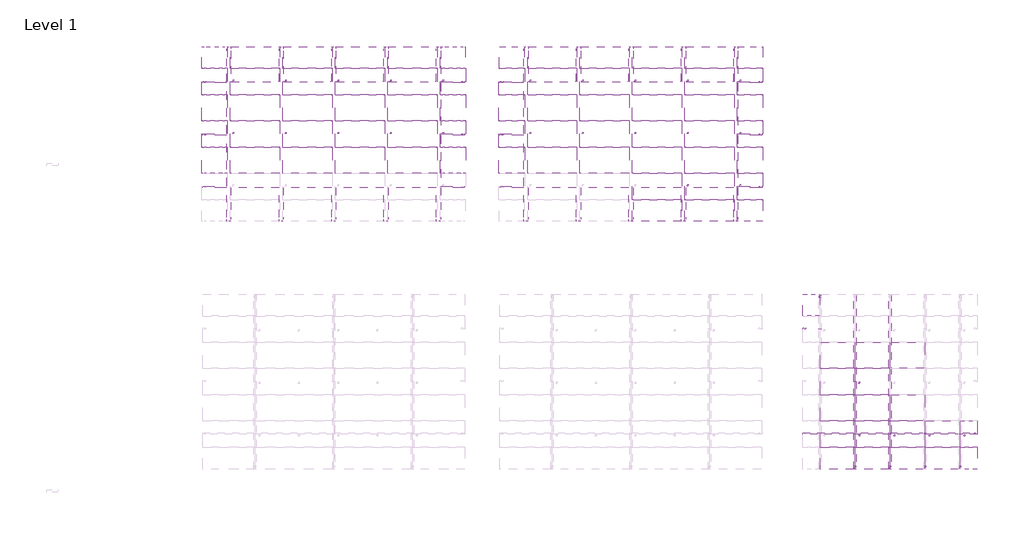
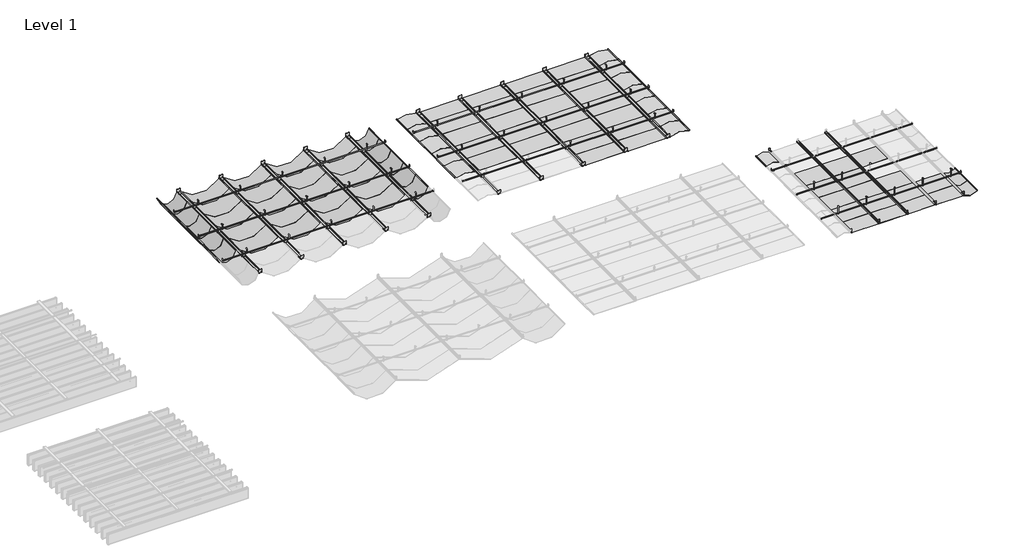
# One storey, part 31 of 32: 139 proxies.
"""IFC4 building model written with IfcOpenShell, lengths in millimetres."""

from ifc_helpers import new_model, si_unit, origin, place, context, project, spatial, transform, mapped, element, save
from components import generic_models_bd86510f, generic_models_00619762, generic_models_35db3c34, generic_models_3d7ed079, generic_models_ec380e44, generic_models_ebad526c, generic_models_70da1f73, generic_models_ead52ac8, generic_models_b18b6bec, generic_models_10d21898, generic_models_e175033b, generic_models_3b12604e, generic_models_fe305517, generic_models_41f043e1, generic_models_075569b2, generic_models_02727b26, generic_models_f9a1266b, generic_models_0db597f7, generic_models_ce491251, generic_models_e62b76ac, generic_models_9e18e937, generic_models_28f6a95c, generic_models_9ccf16c1, generic_models_743fb40c

model = new_model("IFC4")

# Units and contexts
model_context = context("Model", 3, world=origin())
ifc_project = project(units=[si_unit("LENGTHUNIT", "METRE", prefix="MILLI")], contexts=[model_context])

# Site, building, storey
site = spatial("IfcSite", under=ifc_project)
building = spatial("IfcBuilding", under=site)
storey = spatial("IfcBuildingStorey", under=building, Name="Level 1", Elevation=0.0)

# Proxies
placement = place(None, origin())
generic_models_shape = generic_models_bd86510f(model_context)
element("IfcBuildingElementProxy", 1, Name="durlum_S5_DOMUS_panel : durlum_S5_DOMUS_panel_wall_width_cut", ObjectType="durlum_S5_DOMUS_panel : durlum_S5_DOMUS_panel_wall_width_cut", at=placement, inside=storey, context=model_context, shape_type="MappedRepresentation", body=[
    mapped(generic_models_shape, transform((36066.0104325, 26450.5348963, 3800.0), x_axis=(1.0, 0.0, 0.0), y_axis=(0.0, 1.0, 0.0), z_axis=(0.0, 0.0, 1.0))),
])
element("IfcBuildingElementProxy", 2, Name="durlum_S5_DOMUS_panel : durlum_S5_DOMUS_panel_wall_width_cut", ObjectType="durlum_S5_DOMUS_panel : durlum_S5_DOMUS_panel_wall_width_cut", at=placement, inside=storey, context=model_context, shape_type="MappedRepresentation", body=[
    mapped(generic_models_shape, transform((37266.0104325, 26450.5348963, 3800.0), x_axis=(1.0, 0.0, 0.0), y_axis=(0.0, 1.0, 0.0), z_axis=(0.0, 0.0, 1.0))),
])
element("IfcBuildingElementProxy", 3, Name="durlum_S5_DOMUS_panel : durlum_S5_DOMUS_panel_wall_width_cut", ObjectType="durlum_S5_DOMUS_panel : durlum_S5_DOMUS_panel_wall_width_cut", at=placement, inside=storey, context=model_context, shape_type="MappedRepresentation", body=[
    mapped(generic_models_shape, transform((34866.0104325, 26450.5348963, 3800.0), x_axis=(1.0, 0.0, 0.0), y_axis=(0.0, 1.0, 0.0), z_axis=(0.0, 0.0, 1.0))),
])
element("IfcBuildingElementProxy", 4, Name="durlum_S5_DOMUS_panel : durlum_S5_DOMUS_panel_wall_width_cut", ObjectType="durlum_S5_DOMUS_panel : durlum_S5_DOMUS_panel_wall_width_cut", at=placement, inside=storey, context=model_context, shape_type="MappedRepresentation", body=[
    mapped(generic_models_shape, transform((38466.0104325, 26450.5348963, 3800.0), x_axis=(1.0, 0.0, 0.0), y_axis=(0.0, 1.0, 0.0), z_axis=(0.0, 0.0, 1.0))),
])
generic_models_2_shape = generic_models_00619762(model_context)
element("IfcBuildingElementProxy", 5, Name="durlum_S5_DOMUS_panel : durlum_S5_DOMUS_panel", ObjectType="durlum_S5_DOMUS_panel : durlum_S5_DOMUS_panel", at=placement, inside=storey, context=model_context, shape_type="MappedRepresentation", body=[
    mapped(generic_models_2_shape, transform((36066.0104325, 24100.5348963, 3800.0), x_axis=(1.0, 0.0, 0.0), y_axis=(0.0, 1.0, 0.0), z_axis=(0.0, 0.0, 1.0))),
])
element("IfcBuildingElementProxy", 6, Name="durlum_S5_DOMUS_panel : durlum_S5_DOMUS_panel", ObjectType="durlum_S5_DOMUS_panel : durlum_S5_DOMUS_panel", at=placement, inside=storey, context=model_context, shape_type="MappedRepresentation", body=[
    mapped(generic_models_2_shape, transform((37266.0104325, 24100.5348963, 3800.0), x_axis=(1.0, 0.0, 0.0), y_axis=(0.0, 1.0, 0.0), z_axis=(0.0, 0.0, 1.0))),
])
element("IfcBuildingElementProxy", 7, Name="durlum_S5_DOMUS_panel : durlum_S5_DOMUS_panel", ObjectType="durlum_S5_DOMUS_panel : durlum_S5_DOMUS_panel", at=placement, inside=storey, context=model_context, shape_type="MappedRepresentation", body=[
    mapped(generic_models_2_shape, transform((36066.0104325, 24700.5348963, 3800.0), x_axis=(1.0, 0.0, 0.0), y_axis=(0.0, 1.0, 0.0), z_axis=(0.0, 0.0, 1.0))),
])
element("IfcBuildingElementProxy", 8, Name="durlum_S5_DOMUS_panel : durlum_S5_DOMUS_panel", ObjectType="durlum_S5_DOMUS_panel : durlum_S5_DOMUS_panel", at=placement, inside=storey, context=model_context, shape_type="MappedRepresentation", body=[
    mapped(generic_models_2_shape, transform((37266.0104325, 24700.5348963, 3800.0), x_axis=(1.0, 0.0, 0.0), y_axis=(0.0, 1.0, 0.0), z_axis=(0.0, 0.0, 1.0))),
])
element("IfcBuildingElementProxy", 9, Name="durlum_S5_DOMUS_panel : durlum_S5_DOMUS_panel", ObjectType="durlum_S5_DOMUS_panel : durlum_S5_DOMUS_panel", at=placement, inside=storey, context=model_context, shape_type="MappedRepresentation", body=[
    mapped(generic_models_2_shape, transform((36066.0104325, 25300.5348963, 3800.0), x_axis=(1.0, 0.0, 0.0), y_axis=(0.0, 1.0, 0.0), z_axis=(0.0, 0.0, 1.0))),
])
element("IfcBuildingElementProxy", 10, Name="durlum_S5_DOMUS_panel : durlum_S5_DOMUS_panel", ObjectType="durlum_S5_DOMUS_panel : durlum_S5_DOMUS_panel", at=placement, inside=storey, context=model_context, shape_type="MappedRepresentation", body=[
    mapped(generic_models_2_shape, transform((37266.0104325, 25300.5348963, 3800.0), x_axis=(1.0, 0.0, 0.0), y_axis=(0.0, 1.0, 0.0), z_axis=(0.0, 0.0, 1.0))),
])
element("IfcBuildingElementProxy", 11, Name="durlum_S5_DOMUS_panel : durlum_S5_DOMUS_panel", ObjectType="durlum_S5_DOMUS_panel : durlum_S5_DOMUS_panel", at=placement, inside=storey, context=model_context, shape_type="MappedRepresentation", body=[
    mapped(generic_models_2_shape, transform((36066.0104325, 25900.5348963, 3800.0), x_axis=(1.0, 0.0, 0.0), y_axis=(0.0, 1.0, 0.0), z_axis=(0.0, 0.0, 1.0))),
])
element("IfcBuildingElementProxy", 12, Name="durlum_S5_DOMUS_panel : durlum_S5_DOMUS_panel", ObjectType="durlum_S5_DOMUS_panel : durlum_S5_DOMUS_panel", at=placement, inside=storey, context=model_context, shape_type="MappedRepresentation", body=[
    mapped(generic_models_2_shape, transform((37266.0104325, 25900.5348963, 3800.0), x_axis=(1.0, 0.0, 0.0), y_axis=(0.0, 1.0, 0.0), z_axis=(0.0, 0.0, 1.0))),
])
element("IfcBuildingElementProxy", 13, Name="durlum_S5_DOMUS_panel : durlum_S5_DOMUS_panel", ObjectType="durlum_S5_DOMUS_panel : durlum_S5_DOMUS_panel", at=placement, inside=storey, context=model_context, shape_type="MappedRepresentation", body=[
    mapped(generic_models_2_shape, transform((34866.0104325, 24100.5348963, 3800.0), x_axis=(1.0, 0.0, 0.0), y_axis=(0.0, 1.0, 0.0), z_axis=(0.0, 0.0, 1.0))),
])
element("IfcBuildingElementProxy", 14, Name="durlum_S5_DOMUS_panel : durlum_S5_DOMUS_panel", ObjectType="durlum_S5_DOMUS_panel : durlum_S5_DOMUS_panel", at=placement, inside=storey, context=model_context, shape_type="MappedRepresentation", body=[
    mapped(generic_models_2_shape, transform((38466.0104325, 24100.5348963, 3800.0), x_axis=(1.0, 0.0, 0.0), y_axis=(0.0, 1.0, 0.0), z_axis=(0.0, 0.0, 1.0))),
])
element("IfcBuildingElementProxy", 15, Name="durlum_S5_DOMUS_panel : durlum_S5_DOMUS_panel", ObjectType="durlum_S5_DOMUS_panel : durlum_S5_DOMUS_panel", at=placement, inside=storey, context=model_context, shape_type="MappedRepresentation", body=[
    mapped(generic_models_2_shape, transform((34866.0104325, 24700.5348963, 3800.0), x_axis=(1.0, 0.0, 0.0), y_axis=(0.0, 1.0, 0.0), z_axis=(0.0, 0.0, 1.0))),
])
element("IfcBuildingElementProxy", 16, Name="durlum_S5_DOMUS_panel : durlum_S5_DOMUS_panel", ObjectType="durlum_S5_DOMUS_panel : durlum_S5_DOMUS_panel", at=placement, inside=storey, context=model_context, shape_type="MappedRepresentation", body=[
    mapped(generic_models_2_shape, transform((38466.0104325, 24700.5348963, 3800.0), x_axis=(1.0, 0.0, 0.0), y_axis=(0.0, 1.0, 0.0), z_axis=(0.0, 0.0, 1.0))),
])
element("IfcBuildingElementProxy", 17, Name="durlum_S5_DOMUS_panel : durlum_S5_DOMUS_panel", ObjectType="durlum_S5_DOMUS_panel : durlum_S5_DOMUS_panel", at=placement, inside=storey, context=model_context, shape_type="MappedRepresentation", body=[
    mapped(generic_models_2_shape, transform((34866.0104325, 25300.5348963, 3800.0), x_axis=(1.0, 0.0, 0.0), y_axis=(0.0, 1.0, 0.0), z_axis=(0.0, 0.0, 1.0))),
])
element("IfcBuildingElementProxy", 18, Name="durlum_S5_DOMUS_panel : durlum_S5_DOMUS_panel", ObjectType="durlum_S5_DOMUS_panel : durlum_S5_DOMUS_panel", at=placement, inside=storey, context=model_context, shape_type="MappedRepresentation", body=[
    mapped(generic_models_2_shape, transform((38466.0104325, 25300.5348963, 3800.0), x_axis=(1.0, 0.0, 0.0), y_axis=(0.0, 1.0, 0.0), z_axis=(0.0, 0.0, 1.0))),
])
element("IfcBuildingElementProxy", 19, Name="durlum_S5_DOMUS_panel : durlum_S5_DOMUS_panel", ObjectType="durlum_S5_DOMUS_panel : durlum_S5_DOMUS_panel", at=placement, inside=storey, context=model_context, shape_type="MappedRepresentation", body=[
    mapped(generic_models_2_shape, transform((34866.0104325, 25900.5348963, 3800.0), x_axis=(1.0, 0.0, 0.0), y_axis=(0.0, 1.0, 0.0), z_axis=(0.0, 0.0, 1.0))),
])
element("IfcBuildingElementProxy", 20, Name="durlum_S5_DOMUS_panel : durlum_S5_DOMUS_panel", ObjectType="durlum_S5_DOMUS_panel : durlum_S5_DOMUS_panel", at=placement, inside=storey, context=model_context, shape_type="MappedRepresentation", body=[
    mapped(generic_models_2_shape, transform((38466.0104325, 25900.5348963, 3800.0), x_axis=(1.0, 0.0, 0.0), y_axis=(0.0, 1.0, 0.0), z_axis=(0.0, 0.0, 1.0))),
])
generic_models_3_shape = generic_models_35db3c34(model_context)
element("IfcBuildingElementProxy", 21, Name="durlum_S5_DOMUS_panel : durlum_S5_DOMUS_panel_wall_length_cut", ObjectType="durlum_S5_DOMUS_panel : durlum_S5_DOMUS_panel_wall_length_cut", at=placement, inside=storey, context=model_context, shape_type="MappedRepresentation", body=[
    mapped(generic_models_3_shape, transform((33940.7604325, 25300.5348963, 3800.0), x_axis=(1.0, 0.0, 0.0), y_axis=(0.0, 1.0, 0.0), z_axis=(0.0, 0.0, 1.0))),
])
element("IfcBuildingElementProxy", 22, Name="durlum_S5_DOMUS_panel : durlum_S5_DOMUS_panel_wall_length_cut", ObjectType="durlum_S5_DOMUS_panel : durlum_S5_DOMUS_panel_wall_length_cut", at=placement, inside=storey, context=model_context, shape_type="MappedRepresentation", body=[
    mapped(generic_models_3_shape, transform((33940.7604325, 24700.5348963, 3800.0), x_axis=(1.0, 0.0, 0.0), y_axis=(0.0, 1.0, 0.0), z_axis=(0.0, 0.0, 1.0))),
])
element("IfcBuildingElementProxy", 23, Name="durlum_S5_DOMUS_panel : durlum_S5_DOMUS_panel_wall_length_cut", ObjectType="durlum_S5_DOMUS_panel : durlum_S5_DOMUS_panel_wall_length_cut", at=placement, inside=storey, context=model_context, shape_type="MappedRepresentation", body=[
    mapped(generic_models_3_shape, transform((39391.2604325, 24100.5348963, 3800.0), x_axis=(1.0, 0.0, 0.0), y_axis=(0.0, 1.0, 0.0), z_axis=(0.0, 0.0, 1.0))),
])
element("IfcBuildingElementProxy", 24, Name="durlum_S5_DOMUS_panel : durlum_S5_DOMUS_panel_wall_length_cut", ObjectType="durlum_S5_DOMUS_panel : durlum_S5_DOMUS_panel_wall_length_cut", at=placement, inside=storey, context=model_context, shape_type="MappedRepresentation", body=[
    mapped(generic_models_3_shape, transform((39391.2604325, 24700.5348963, 3800.0), x_axis=(1.0, 0.0, 0.0), y_axis=(0.0, 1.0, 0.0), z_axis=(0.0, 0.0, 1.0))),
])
element("IfcBuildingElementProxy", 25, Name="durlum_S5_DOMUS_panel : durlum_S5_DOMUS_panel_wall_length_cut", ObjectType="durlum_S5_DOMUS_panel : durlum_S5_DOMUS_panel_wall_length_cut", at=placement, inside=storey, context=model_context, shape_type="MappedRepresentation", body=[
    mapped(generic_models_3_shape, transform((33940.7604325, 24100.5348963, 3800.0), x_axis=(1.0, 0.0, 0.0), y_axis=(0.0, 1.0, 0.0), z_axis=(0.0, 0.0, 1.0))),
])
element("IfcBuildingElementProxy", 26, Name="durlum_S5_DOMUS_panel : durlum_S5_DOMUS_panel_wall_length_cut", ObjectType="durlum_S5_DOMUS_panel : durlum_S5_DOMUS_panel_wall_length_cut", at=placement, inside=storey, context=model_context, shape_type="MappedRepresentation", body=[
    mapped(generic_models_3_shape, transform((33940.7604325, 25900.5348963, 3800.0), x_axis=(1.0, 0.0, 0.0), y_axis=(0.0, 1.0, 0.0), z_axis=(0.0, 0.0, 1.0))),
])
element("IfcBuildingElementProxy", 27, Name="durlum_S5_DOMUS_panel : durlum_S5_DOMUS_panel_wall_length_cut", ObjectType="durlum_S5_DOMUS_panel : durlum_S5_DOMUS_panel_wall_length_cut", at=placement, inside=storey, context=model_context, shape_type="MappedRepresentation", body=[
    mapped(generic_models_3_shape, transform((39391.2604325, 25300.5348963, 3800.0), x_axis=(1.0, 0.0, 0.0), y_axis=(0.0, 1.0, 0.0), z_axis=(0.0, 0.0, 1.0))),
])
element("IfcBuildingElementProxy", 28, Name="durlum_S5_DOMUS_panel : durlum_S5_DOMUS_panel_wall_length_cut", ObjectType="durlum_S5_DOMUS_panel : durlum_S5_DOMUS_panel_wall_length_cut", at=placement, inside=storey, context=model_context, shape_type="MappedRepresentation", body=[
    mapped(generic_models_3_shape, transform((39391.2604325, 25900.5348963, 3800.0), x_axis=(1.0, 0.0, 0.0), y_axis=(0.0, 1.0, 0.0), z_axis=(0.0, 0.0, 1.0))),
])
generic_models_4_shape = generic_models_3d7ed079(model_context)
element("IfcBuildingElementProxy", 29, Name="durlum_S5_DOMUS_panel : durlum_S5_DOMUS_panel_wall_corner", ObjectType="durlum_S5_DOMUS_panel : durlum_S5_DOMUS_panel_wall_corner", at=placement, inside=storey, context=model_context, shape_type="MappedRepresentation", body=[
    mapped(generic_models_4_shape, transform((39391.2604325, 26450.5348963, 3800.0), x_axis=(1.0, 0.0, 0.0), y_axis=(0.0, 1.0, 0.0), z_axis=(0.0, 0.0, 1.0))),
])
element("IfcBuildingElementProxy", 30, Name="durlum_S5_DOMUS_panel : durlum_S5_DOMUS_panel_wall_corner", ObjectType="durlum_S5_DOMUS_panel : durlum_S5_DOMUS_panel_wall_corner", at=placement, inside=storey, context=model_context, shape_type="MappedRepresentation", body=[
    mapped(generic_models_4_shape, transform((33940.7604325, 26450.5348963, 3800.0), x_axis=(1.0, 0.0, 0.0), y_axis=(0.0, 1.0, 0.0), z_axis=(0.0, 0.0, 1.0))),
])
generic_models_5_shape = generic_models_ec380e44(model_context)
element("IfcBuildingElementProxy", 31, Name="durlum_S5_DOMUS_panel : durlum_S5_DOMUS_panel_wall_width_cut", ObjectType="durlum_S5_DOMUS_panel : durlum_S5_DOMUS_panel_wall_width_cut", at=placement, inside=storey, context=model_context, shape_type="MappedRepresentation", body=[
    mapped(generic_models_5_shape, transform((44062.0184144, 22950.5348963, 3800.0), x_axis=(1.0, 0.0, 0.0), y_axis=(0.0, 1.0, 0.0), z_axis=(0.0, 0.0, 1.0))),
])
element("IfcBuildingElementProxy", 32, Name="durlum_S5_DOMUS_panel : durlum_S5_DOMUS_panel_wall_width_cut", ObjectType="durlum_S5_DOMUS_panel : durlum_S5_DOMUS_panel_wall_width_cut", at=placement, inside=storey, context=model_context, shape_type="MappedRepresentation", body=[
    mapped(generic_models_5_shape, transform((42862.0184144, 26450.5348963, 3800.0), x_axis=(1.0, 0.0, 0.0), y_axis=(0.0, 1.0, 0.0), z_axis=(0.0, 0.0, 1.0))),
])
element("IfcBuildingElementProxy", 33, Name="durlum_S5_DOMUS_panel : durlum_S5_DOMUS_panel_wall_width_cut", ObjectType="durlum_S5_DOMUS_panel : durlum_S5_DOMUS_panel_wall_width_cut", at=placement, inside=storey, context=model_context, shape_type="MappedRepresentation", body=[
    mapped(generic_models_5_shape, transform((44062.0184144, 26450.5348963, 3800.0), x_axis=(1.0, 0.0, 0.0), y_axis=(0.0, 1.0, 0.0), z_axis=(0.0, 0.0, 1.0))),
])
element("IfcBuildingElementProxy", 34, Name="durlum_S5_DOMUS_panel : durlum_S5_DOMUS_panel_wall_width_cut", ObjectType="durlum_S5_DOMUS_panel : durlum_S5_DOMUS_panel_wall_width_cut", at=placement, inside=storey, context=model_context, shape_type="MappedRepresentation", body=[
    mapped(generic_models_5_shape, transform((45262.0184144, 22950.5348963, 3800.0), x_axis=(1.0, 0.0, 0.0), y_axis=(0.0, 1.0, 0.0), z_axis=(0.0, 0.0, 1.0))),
])
element("IfcBuildingElementProxy", 35, Name="durlum_S5_DOMUS_panel : durlum_S5_DOMUS_panel_wall_width_cut", ObjectType="durlum_S5_DOMUS_panel : durlum_S5_DOMUS_panel_wall_width_cut", at=placement, inside=storey, context=model_context, shape_type="MappedRepresentation", body=[
    mapped(generic_models_5_shape, transform((41662.0184144, 26450.5348963, 3800.0), x_axis=(1.0, 0.0, 0.0), y_axis=(0.0, 1.0, 0.0), z_axis=(0.0, 0.0, 1.0))),
])
element("IfcBuildingElementProxy", 36, Name="durlum_S5_DOMUS_panel : durlum_S5_DOMUS_panel_wall_width_cut", ObjectType="durlum_S5_DOMUS_panel : durlum_S5_DOMUS_panel_wall_width_cut", at=placement, inside=storey, context=model_context, shape_type="MappedRepresentation", body=[
    mapped(generic_models_5_shape, transform((45262.0184144, 26450.5348963, 3800.0), x_axis=(1.0, 0.0, 0.0), y_axis=(0.0, 1.0, 0.0), z_axis=(0.0, 0.0, 1.0))),
])
generic_models_6_shape = generic_models_ebad526c(model_context)
element("IfcBuildingElementProxy", 37, Name="durlum_S5_DOMUS_panel : durlum_S5_DOMUS_panel", ObjectType="durlum_S5_DOMUS_panel : durlum_S5_DOMUS_panel", at=placement, inside=storey, context=model_context, shape_type="MappedRepresentation", body=[
    mapped(generic_models_6_shape, transform((42862.0184144, 24100.5348963, 3800.0), x_axis=(1.0, 0.0, 0.0), y_axis=(0.0, 1.0, 0.0), z_axis=(0.0, 0.0, 1.0))),
])
element("IfcBuildingElementProxy", 38, Name="durlum_S5_DOMUS_panel : durlum_S5_DOMUS_panel", ObjectType="durlum_S5_DOMUS_panel : durlum_S5_DOMUS_panel", at=placement, inside=storey, context=model_context, shape_type="MappedRepresentation", body=[
    mapped(generic_models_6_shape, transform((44062.0184144, 24100.5348963, 3800.0), x_axis=(1.0, 0.0, 0.0), y_axis=(0.0, 1.0, 0.0), z_axis=(0.0, 0.0, 1.0))),
])
element("IfcBuildingElementProxy", 39, Name="durlum_S5_DOMUS_panel : durlum_S5_DOMUS_panel", ObjectType="durlum_S5_DOMUS_panel : durlum_S5_DOMUS_panel", at=placement, inside=storey, context=model_context, shape_type="MappedRepresentation", body=[
    mapped(generic_models_6_shape, transform((42862.0184144, 24700.5348963, 3800.0), x_axis=(1.0, 0.0, 0.0), y_axis=(0.0, 1.0, 0.0), z_axis=(0.0, 0.0, 1.0))),
])
element("IfcBuildingElementProxy", 40, Name="durlum_S5_DOMUS_panel : durlum_S5_DOMUS_panel", ObjectType="durlum_S5_DOMUS_panel : durlum_S5_DOMUS_panel", at=placement, inside=storey, context=model_context, shape_type="MappedRepresentation", body=[
    mapped(generic_models_6_shape, transform((44062.0184144, 24700.5348963, 3800.0), x_axis=(1.0, 0.0, 0.0), y_axis=(0.0, 1.0, 0.0), z_axis=(0.0, 0.0, 1.0))),
])
element("IfcBuildingElementProxy", 41, Name="durlum_S5_DOMUS_panel : durlum_S5_DOMUS_panel", ObjectType="durlum_S5_DOMUS_panel : durlum_S5_DOMUS_panel", at=placement, inside=storey, context=model_context, shape_type="MappedRepresentation", body=[
    mapped(generic_models_6_shape, transform((42862.0184144, 25300.5348963, 3800.0), x_axis=(1.0, 0.0, 0.0), y_axis=(0.0, 1.0, 0.0), z_axis=(0.0, 0.0, 1.0))),
])
element("IfcBuildingElementProxy", 42, Name="durlum_S5_DOMUS_panel : durlum_S5_DOMUS_panel", ObjectType="durlum_S5_DOMUS_panel : durlum_S5_DOMUS_panel", at=placement, inside=storey, context=model_context, shape_type="MappedRepresentation", body=[
    mapped(generic_models_6_shape, transform((44062.0184144, 25300.5348963, 3800.0), x_axis=(1.0, 0.0, 0.0), y_axis=(0.0, 1.0, 0.0), z_axis=(0.0, 0.0, 1.0))),
])
element("IfcBuildingElementProxy", 43, Name="durlum_S5_DOMUS_panel : durlum_S5_DOMUS_panel", ObjectType="durlum_S5_DOMUS_panel : durlum_S5_DOMUS_panel", at=placement, inside=storey, context=model_context, shape_type="MappedRepresentation", body=[
    mapped(generic_models_6_shape, transform((44062.0184144, 23500.5348963, 3800.0), x_axis=(1.0, 0.0, 0.0), y_axis=(0.0, 1.0, 0.0), z_axis=(0.0, 0.0, 1.0))),
])
element("IfcBuildingElementProxy", 44, Name="durlum_S5_DOMUS_panel : durlum_S5_DOMUS_panel", ObjectType="durlum_S5_DOMUS_panel : durlum_S5_DOMUS_panel", at=placement, inside=storey, context=model_context, shape_type="MappedRepresentation", body=[
    mapped(generic_models_6_shape, transform((42862.0184144, 25900.5348963, 3800.0), x_axis=(1.0, 0.0, 0.0), y_axis=(0.0, 1.0, 0.0), z_axis=(0.0, 0.0, 1.0))),
])
element("IfcBuildingElementProxy", 45, Name="durlum_S5_DOMUS_panel : durlum_S5_DOMUS_panel", ObjectType="durlum_S5_DOMUS_panel : durlum_S5_DOMUS_panel", at=placement, inside=storey, context=model_context, shape_type="MappedRepresentation", body=[
    mapped(generic_models_6_shape, transform((44062.0184144, 25900.5348963, 3800.0), x_axis=(1.0, 0.0, 0.0), y_axis=(0.0, 1.0, 0.0), z_axis=(0.0, 0.0, 1.0))),
])
element("IfcBuildingElementProxy", 46, Name="durlum_S5_DOMUS_panel : durlum_S5_DOMUS_panel", ObjectType="durlum_S5_DOMUS_panel : durlum_S5_DOMUS_panel", at=placement, inside=storey, context=model_context, shape_type="MappedRepresentation", body=[
    mapped(generic_models_6_shape, transform((41662.0184144, 24100.5348963, 3800.0), x_axis=(1.0, 0.0, 0.0), y_axis=(0.0, 1.0, 0.0), z_axis=(0.0, 0.0, 1.0))),
])
element("IfcBuildingElementProxy", 47, Name="durlum_S5_DOMUS_panel : durlum_S5_DOMUS_panel", ObjectType="durlum_S5_DOMUS_panel : durlum_S5_DOMUS_panel", at=placement, inside=storey, context=model_context, shape_type="MappedRepresentation", body=[
    mapped(generic_models_6_shape, transform((45262.0184144, 24100.5348963, 3800.0), x_axis=(1.0, 0.0, 0.0), y_axis=(0.0, 1.0, 0.0), z_axis=(0.0, 0.0, 1.0))),
])
element("IfcBuildingElementProxy", 48, Name="durlum_S5_DOMUS_panel : durlum_S5_DOMUS_panel", ObjectType="durlum_S5_DOMUS_panel : durlum_S5_DOMUS_panel", at=placement, inside=storey, context=model_context, shape_type="MappedRepresentation", body=[
    mapped(generic_models_6_shape, transform((41662.0184144, 24700.5348963, 3800.0), x_axis=(1.0, 0.0, 0.0), y_axis=(0.0, 1.0, 0.0), z_axis=(0.0, 0.0, 1.0))),
])
element("IfcBuildingElementProxy", 49, Name="durlum_S5_DOMUS_panel : durlum_S5_DOMUS_panel", ObjectType="durlum_S5_DOMUS_panel : durlum_S5_DOMUS_panel", at=placement, inside=storey, context=model_context, shape_type="MappedRepresentation", body=[
    mapped(generic_models_6_shape, transform((45262.0184144, 24700.5348963, 3800.0), x_axis=(1.0, 0.0, 0.0), y_axis=(0.0, 1.0, 0.0), z_axis=(0.0, 0.0, 1.0))),
])
element("IfcBuildingElementProxy", 50, Name="durlum_S5_DOMUS_panel : durlum_S5_DOMUS_panel", ObjectType="durlum_S5_DOMUS_panel : durlum_S5_DOMUS_panel", at=placement, inside=storey, context=model_context, shape_type="MappedRepresentation", body=[
    mapped(generic_models_6_shape, transform((41662.0184144, 25300.5348963, 3800.0), x_axis=(1.0, 0.0, 0.0), y_axis=(0.0, 1.0, 0.0), z_axis=(0.0, 0.0, 1.0))),
])
element("IfcBuildingElementProxy", 51, Name="durlum_S5_DOMUS_panel : durlum_S5_DOMUS_panel", ObjectType="durlum_S5_DOMUS_panel : durlum_S5_DOMUS_panel", at=placement, inside=storey, context=model_context, shape_type="MappedRepresentation", body=[
    mapped(generic_models_6_shape, transform((45262.0184144, 25300.5348963, 3800.0), x_axis=(1.0, 0.0, 0.0), y_axis=(0.0, 1.0, 0.0), z_axis=(0.0, 0.0, 1.0))),
])
element("IfcBuildingElementProxy", 52, Name="durlum_S5_DOMUS_panel : durlum_S5_DOMUS_panel", ObjectType="durlum_S5_DOMUS_panel : durlum_S5_DOMUS_panel", at=placement, inside=storey, context=model_context, shape_type="MappedRepresentation", body=[
    mapped(generic_models_6_shape, transform((45262.0184144, 23500.5348963, 3800.0), x_axis=(1.0, 0.0, 0.0), y_axis=(0.0, 1.0, 0.0), z_axis=(0.0, 0.0, 1.0))),
])
element("IfcBuildingElementProxy", 53, Name="durlum_S5_DOMUS_panel : durlum_S5_DOMUS_panel", ObjectType="durlum_S5_DOMUS_panel : durlum_S5_DOMUS_panel", at=placement, inside=storey, context=model_context, shape_type="MappedRepresentation", body=[
    mapped(generic_models_6_shape, transform((41662.0184144, 25900.5348963, 3800.0), x_axis=(1.0, 0.0, 0.0), y_axis=(0.0, 1.0, 0.0), z_axis=(0.0, 0.0, 1.0))),
])
element("IfcBuildingElementProxy", 54, Name="durlum_S5_DOMUS_panel : durlum_S5_DOMUS_panel", ObjectType="durlum_S5_DOMUS_panel : durlum_S5_DOMUS_panel", at=placement, inside=storey, context=model_context, shape_type="MappedRepresentation", body=[
    mapped(generic_models_6_shape, transform((45262.0184144, 25900.5348963, 3800.0), x_axis=(1.0, 0.0, 0.0), y_axis=(0.0, 1.0, 0.0), z_axis=(0.0, 0.0, 1.0))),
])
generic_models_7_shape = generic_models_70da1f73(model_context)
element("IfcBuildingElementProxy", 55, Name="durlum_S5_DOMUS_panel : durlum_S5_DOMUS_panel_wall_length_cut", ObjectType="durlum_S5_DOMUS_panel : durlum_S5_DOMUS_panel_wall_length_cut", at=placement, inside=storey, context=model_context, shape_type="MappedRepresentation", body=[
    mapped(generic_models_7_shape, transform((40736.7684144, 25300.5348963, 3800.0), x_axis=(1.0, 0.0, 0.0), y_axis=(0.0, 1.0, 0.0), z_axis=(0.0, 0.0, 1.0))),
])
element("IfcBuildingElementProxy", 56, Name="durlum_S5_DOMUS_panel : durlum_S5_DOMUS_panel_wall_length_cut", ObjectType="durlum_S5_DOMUS_panel : durlum_S5_DOMUS_panel_wall_length_cut", at=placement, inside=storey, context=model_context, shape_type="MappedRepresentation", body=[
    mapped(generic_models_7_shape, transform((40736.7684144, 24700.5348963, 3800.0), x_axis=(1.0, 0.0, 0.0), y_axis=(0.0, 1.0, 0.0), z_axis=(0.0, 0.0, 1.0))),
])
element("IfcBuildingElementProxy", 57, Name="durlum_S5_DOMUS_panel : durlum_S5_DOMUS_panel_wall_length_cut", ObjectType="durlum_S5_DOMUS_panel : durlum_S5_DOMUS_panel_wall_length_cut", at=placement, inside=storey, context=model_context, shape_type="MappedRepresentation", body=[
    mapped(generic_models_7_shape, transform((46187.2684144, 24100.5348963, 3800.0), x_axis=(1.0, 0.0, 0.0), y_axis=(0.0, 1.0, 0.0), z_axis=(0.0, 0.0, 1.0))),
])
element("IfcBuildingElementProxy", 58, Name="durlum_S5_DOMUS_panel : durlum_S5_DOMUS_panel_wall_length_cut", ObjectType="durlum_S5_DOMUS_panel : durlum_S5_DOMUS_panel_wall_length_cut", at=placement, inside=storey, context=model_context, shape_type="MappedRepresentation", body=[
    mapped(generic_models_7_shape, transform((46187.2684144, 24700.5348963, 3800.0), x_axis=(1.0, 0.0, 0.0), y_axis=(0.0, 1.0, 0.0), z_axis=(0.0, 0.0, 1.0))),
])
element("IfcBuildingElementProxy", 59, Name="durlum_S5_DOMUS_panel : durlum_S5_DOMUS_panel_wall_length_cut", ObjectType="durlum_S5_DOMUS_panel : durlum_S5_DOMUS_panel_wall_length_cut", at=placement, inside=storey, context=model_context, shape_type="MappedRepresentation", body=[
    mapped(generic_models_7_shape, transform((40736.7684144, 24100.5348963, 3800.0), x_axis=(1.0, 0.0, 0.0), y_axis=(0.0, 1.0, 0.0), z_axis=(0.0, 0.0, 1.0))),
])
element("IfcBuildingElementProxy", 60, Name="durlum_S5_DOMUS_panel : durlum_S5_DOMUS_panel_wall_length_cut", ObjectType="durlum_S5_DOMUS_panel : durlum_S5_DOMUS_panel_wall_length_cut", at=placement, inside=storey, context=model_context, shape_type="MappedRepresentation", body=[
    mapped(generic_models_7_shape, transform((40736.7684144, 25900.5348963, 3800.0), x_axis=(1.0, 0.0, 0.0), y_axis=(0.0, 1.0, 0.0), z_axis=(0.0, 0.0, 1.0))),
])
element("IfcBuildingElementProxy", 61, Name="durlum_S5_DOMUS_panel : durlum_S5_DOMUS_panel_wall_length_cut", ObjectType="durlum_S5_DOMUS_panel : durlum_S5_DOMUS_panel_wall_length_cut", at=placement, inside=storey, context=model_context, shape_type="MappedRepresentation", body=[
    mapped(generic_models_7_shape, transform((46187.2684144, 25300.5348963, 3800.0), x_axis=(1.0, 0.0, 0.0), y_axis=(0.0, 1.0, 0.0), z_axis=(0.0, 0.0, 1.0))),
])
element("IfcBuildingElementProxy", 62, Name="durlum_S5_DOMUS_panel : durlum_S5_DOMUS_panel_wall_length_cut", ObjectType="durlum_S5_DOMUS_panel : durlum_S5_DOMUS_panel_wall_length_cut", at=placement, inside=storey, context=model_context, shape_type="MappedRepresentation", body=[
    mapped(generic_models_7_shape, transform((46187.2684144, 23500.5348963, 3800.0), x_axis=(1.0, 0.0, 0.0), y_axis=(0.0, 1.0, 0.0), z_axis=(0.0, 0.0, 1.0))),
])
element("IfcBuildingElementProxy", 63, Name="durlum_S5_DOMUS_panel : durlum_S5_DOMUS_panel_wall_length_cut", ObjectType="durlum_S5_DOMUS_panel : durlum_S5_DOMUS_panel_wall_length_cut", at=placement, inside=storey, context=model_context, shape_type="MappedRepresentation", body=[
    mapped(generic_models_7_shape, transform((46187.2684144, 25900.5348963, 3800.0), x_axis=(1.0, 0.0, 0.0), y_axis=(0.0, 1.0, 0.0), z_axis=(0.0, 0.0, 1.0))),
])
generic_models_8_shape = generic_models_ead52ac8(model_context)
element("IfcBuildingElementProxy", 64, Name="durlum_S5_DOMUS_panel : durlum_S5_DOMUS_panel_wall_corner", ObjectType="durlum_S5_DOMUS_panel : durlum_S5_DOMUS_panel_wall_corner", at=placement, inside=storey, context=model_context, shape_type="MappedRepresentation", body=[
    mapped(generic_models_8_shape, transform((46187.2684144, 26450.5348963, 3800.0), x_axis=(1.0, 0.0, 0.0), y_axis=(0.0, 1.0, 0.0), z_axis=(0.0, 0.0, 1.0))),
])
element("IfcBuildingElementProxy", 65, Name="durlum_S5_DOMUS_panel : durlum_S5_DOMUS_panel_wall_corner", ObjectType="durlum_S5_DOMUS_panel : durlum_S5_DOMUS_panel_wall_corner", at=placement, inside=storey, context=model_context, shape_type="MappedRepresentation", body=[
    mapped(generic_models_8_shape, transform((46187.2684144, 22950.5348963, 3800.0), x_axis=(1.0, 0.0, 0.0), y_axis=(0.0, 1.0, 0.0), z_axis=(0.0, 0.0, 1.0))),
])
element("IfcBuildingElementProxy", 66, Name="durlum_S5_DOMUS_panel : durlum_S5_DOMUS_panel_wall_corner", ObjectType="durlum_S5_DOMUS_panel : durlum_S5_DOMUS_panel_wall_corner", at=placement, inside=storey, context=model_context, shape_type="MappedRepresentation", body=[
    mapped(generic_models_8_shape, transform((40736.7684144, 26450.5348963, 3800.0), x_axis=(1.0, 0.0, 0.0), y_axis=(0.0, 1.0, 0.0), z_axis=(0.0, 0.0, 1.0))),
])
generic_models_9_shape = generic_models_b18b6bec(model_context)
element("IfcBuildingElementProxy", 67, Name="durlum_S7_DOMUS_ALT_panel : durlum_S7_DOMUS_panel_wall_length_cut", ObjectType="durlum_S7_DOMUS_ALT_panel : durlum_S7_DOMUS_panel_wall_length_cut", at=placement, inside=storey, context=model_context, shape_type="MappedRepresentation", body=[
    mapped(generic_models_9_shape, transform((51188.589341, 17837.9344659, 3700.0), x_axis=(1.0, 0.0, 0.0), y_axis=(0.0, 1.0, 0.0), z_axis=(0.0, 0.0, 1.0))),
])
generic_models_10_shape = generic_models_10d21898(model_context)
element("IfcBuildingElementProxy", 68, Name="durlum_S7_DOMUS_ALT_panel : durlum_S7_DOMUS_panel", ObjectType="durlum_S7_DOMUS_ALT_panel : durlum_S7_DOMUS_panel", at=placement, inside=storey, context=model_context, shape_type="MappedRepresentation", body=[
    mapped(generic_models_10_shape, transform((48188.589341, 19637.9344659, 3700.0), x_axis=(1.0, 0.0, 0.0), y_axis=(0.0, 1.0, 0.0), z_axis=(0.0, 0.0, 1.0))),
])
element("IfcBuildingElementProxy", 69, Name="durlum_S7_DOMUS_ALT_panel : durlum_S7_DOMUS_panel", ObjectType="durlum_S7_DOMUS_ALT_panel : durlum_S7_DOMUS_panel", at=placement, inside=storey, context=model_context, shape_type="MappedRepresentation", body=[
    mapped(generic_models_10_shape, transform((49788.589341, 19637.9344659, 3700.0), x_axis=(1.0, 0.0, 0.0), y_axis=(0.0, 1.0, 0.0), z_axis=(0.0, 0.0, 1.0))),
])
element("IfcBuildingElementProxy", 70, Name="durlum_S7_DOMUS_ALT_panel : durlum_S7_DOMUS_panel", ObjectType="durlum_S7_DOMUS_ALT_panel : durlum_S7_DOMUS_panel", at=placement, inside=storey, context=model_context, shape_type="MappedRepresentation", body=[
    mapped(generic_models_10_shape, transform((48188.589341, 17837.9344659, 3700.0), x_axis=(1.0, 0.0, 0.0), y_axis=(0.0, 1.0, 0.0), z_axis=(0.0, 0.0, 1.0))),
])
element("IfcBuildingElementProxy", 71, Name="durlum_S7_DOMUS_ALT_panel : durlum_S7_DOMUS_panel", ObjectType="durlum_S7_DOMUS_ALT_panel : durlum_S7_DOMUS_panel", at=placement, inside=storey, context=model_context, shape_type="MappedRepresentation", body=[
    mapped(generic_models_10_shape, transform((49788.589341, 17837.9344659, 3700.0), x_axis=(1.0, 0.0, 0.0), y_axis=(0.0, 1.0, 0.0), z_axis=(0.0, 0.0, 1.0))),
])
element("IfcBuildingElementProxy", 72, Name="durlum_S7_DOMUS_ALT_panel : durlum_S7_DOMUS_panel", ObjectType="durlum_S7_DOMUS_ALT_panel : durlum_S7_DOMUS_panel", at=placement, inside=storey, context=model_context, shape_type="MappedRepresentation", body=[
    mapped(generic_models_10_shape, transform((48188.589341, 18437.9344659, 3700.0), x_axis=(1.0, 0.0, 0.0), y_axis=(0.0, 1.0, 0.0), z_axis=(0.0, 0.0, 1.0))),
])
element("IfcBuildingElementProxy", 73, Name="durlum_S7_DOMUS_ALT_panel : durlum_S7_DOMUS_panel", ObjectType="durlum_S7_DOMUS_ALT_panel : durlum_S7_DOMUS_panel", at=placement, inside=storey, context=model_context, shape_type="MappedRepresentation", body=[
    mapped(generic_models_10_shape, transform((49788.589341, 18437.9344659, 3700.0), x_axis=(1.0, 0.0, 0.0), y_axis=(0.0, 1.0, 0.0), z_axis=(0.0, 0.0, 1.0))),
])
element("IfcBuildingElementProxy", 74, Name="durlum_S7_DOMUS_ALT_panel : durlum_S7_DOMUS_panel", ObjectType="durlum_S7_DOMUS_ALT_panel : durlum_S7_DOMUS_panel", at=placement, inside=storey, context=model_context, shape_type="MappedRepresentation", body=[
    mapped(generic_models_10_shape, transform((48188.589341, 19037.9344659, 3700.0), x_axis=(1.0, 0.0, 0.0), y_axis=(0.0, 1.0, 0.0), z_axis=(0.0, 0.0, 1.0))),
])
generic_models_11_shape = generic_models_e175033b(model_context)
element("IfcBuildingElementProxy", 75, Name="durlum_S7_DOMUS_ALT_panel : durlum_S7_DOMUS_panel", ObjectType="durlum_S7_DOMUS_ALT_panel : durlum_S7_DOMUS_panel", at=placement, inside=storey, context=model_context, shape_type="MappedRepresentation", body=[
    mapped(generic_models_11_shape, transform((48988.589341, 19637.9344659, 3700.0), x_axis=(1.0, 0.0, 0.0), y_axis=(0.0, 1.0, 0.0), z_axis=(0.0, 0.0, 1.0))),
])
element("IfcBuildingElementProxy", 76, Name="durlum_S7_DOMUS_ALT_panel : durlum_S7_DOMUS_panel", ObjectType="durlum_S7_DOMUS_ALT_panel : durlum_S7_DOMUS_panel", at=placement, inside=storey, context=model_context, shape_type="MappedRepresentation", body=[
    mapped(generic_models_11_shape, transform((50588.589341, 17837.9344659, 3700.0), x_axis=(1.0, 0.0, 0.0), y_axis=(0.0, 1.0, 0.0), z_axis=(0.0, 0.0, 1.0))),
])
element("IfcBuildingElementProxy", 77, Name="durlum_S7_DOMUS_ALT_panel : durlum_S7_DOMUS_panel", ObjectType="durlum_S7_DOMUS_ALT_panel : durlum_S7_DOMUS_panel", at=placement, inside=storey, context=model_context, shape_type="MappedRepresentation", body=[
    mapped(generic_models_11_shape, transform((48988.589341, 17837.9344659, 3700.0), x_axis=(1.0, 0.0, 0.0), y_axis=(0.0, 1.0, 0.0), z_axis=(0.0, 0.0, 1.0))),
])
element("IfcBuildingElementProxy", 78, Name="durlum_S7_DOMUS_ALT_panel : durlum_S7_DOMUS_panel", ObjectType="durlum_S7_DOMUS_ALT_panel : durlum_S7_DOMUS_panel", at=placement, inside=storey, context=model_context, shape_type="MappedRepresentation", body=[
    mapped(generic_models_11_shape, transform((48988.589341, 18437.9344659, 3700.0), x_axis=(1.0, 0.0, 0.0), y_axis=(0.0, 1.0, 0.0), z_axis=(0.0, 0.0, 1.0))),
])
element("IfcBuildingElementProxy", 79, Name="durlum_S7_DOMUS_ALT_panel : durlum_S7_DOMUS_panel", ObjectType="durlum_S7_DOMUS_ALT_panel : durlum_S7_DOMUS_panel", at=placement, inside=storey, context=model_context, shape_type="MappedRepresentation", body=[
    mapped(generic_models_11_shape, transform((48988.589341, 19037.9344659, 3700.0), x_axis=(1.0, 0.0, 0.0), y_axis=(0.0, 1.0, 0.0), z_axis=(0.0, 0.0, 1.0))),
])
generic_models_12_shape = generic_models_3b12604e(model_context)
element("IfcBuildingElementProxy", 80, Name="durlum_S7_DOMUS_ALT_panel : durlum_S7_DOMUS_panel_wall_corner", ObjectType="durlum_S7_DOMUS_ALT_panel : durlum_S7_DOMUS_panel_wall_corner", at=placement, inside=storey, context=model_context, shape_type="MappedRepresentation", body=[
    mapped(generic_models_12_shape, transform((51188.589341, 17287.9344659, 3700.0), x_axis=(1.0, 0.0, 0.0), y_axis=(0.0, 1.0, 0.0), z_axis=(0.0, 0.0, 1.0))),
])
generic_models_13_shape = generic_models_fe305517(model_context)
element("IfcBuildingElementProxy", 81, Name="durlum_S7_DOMUS_ALT_panel : durlum_S7_DOMUS_panel_wall_corner", ObjectType="durlum_S7_DOMUS_ALT_panel : durlum_S7_DOMUS_panel_wall_corner", at=placement, inside=storey, context=model_context, shape_type="MappedRepresentation", body=[
    mapped(generic_models_13_shape, transform((47588.589341, 20787.9344659, 3700.0), x_axis=(1.0, 0.0, 0.0), y_axis=(0.0, 1.0, 0.0), z_axis=(0.0, 0.0, 1.0))),
])
generic_models_14_shape = generic_models_41f043e1(model_context)
element("IfcBuildingElementProxy", 82, Name="durlum_S7_DOMUS_ALT_panel : durlum_S7_DOMUS_panel", ObjectType="durlum_S7_DOMUS_ALT_panel : durlum_S7_DOMUS_panel", at=placement, inside=storey, context=model_context, shape_type="MappedRepresentation", body=[
    mapped(generic_models_14_shape, transform((48988.589341, 17287.9344659, 3700.0), x_axis=(1.0, 0.0, 0.0), y_axis=(0.0, 1.0, 0.0), z_axis=(0.0, 0.0, 1.0))),
])
element("IfcBuildingElementProxy", 83, Name="durlum_S7_DOMUS_ALT_panel : durlum_S7_DOMUS_panel", ObjectType="durlum_S7_DOMUS_ALT_panel : durlum_S7_DOMUS_panel", at=placement, inside=storey, context=model_context, shape_type="MappedRepresentation", body=[
    mapped(generic_models_14_shape, transform((50588.589341, 17287.9344659, 3700.0), x_axis=(1.0, 0.0, 0.0), y_axis=(0.0, 1.0, 0.0), z_axis=(0.0, 0.0, 1.0))),
])
generic_models_15_shape = generic_models_075569b2(model_context)
element("IfcBuildingElementProxy", 84, Name="durlum_S7_DOMUS_ALT_panel : durlum_S7_DOMUS_panel", ObjectType="durlum_S7_DOMUS_ALT_panel : durlum_S7_DOMUS_panel", at=placement, inside=storey, context=model_context, shape_type="MappedRepresentation", body=[
    mapped(generic_models_15_shape, transform((49788.589341, 17287.9344659, 3700.0), x_axis=(1.0, 0.0, 0.0), y_axis=(0.0, 1.0, 0.0), z_axis=(0.0, 0.0, 1.0))),
])
element("IfcBuildingElementProxy", 85, Name="durlum_S7_DOMUS_ALT_panel : durlum_S7_DOMUS_panel", ObjectType="durlum_S7_DOMUS_ALT_panel : durlum_S7_DOMUS_panel", at=placement, inside=storey, context=model_context, shape_type="MappedRepresentation", body=[
    mapped(generic_models_15_shape, transform((48188.589341, 17287.9344659, 3700.0), x_axis=(1.0, 0.0, 0.0), y_axis=(0.0, 1.0, 0.0), z_axis=(0.0, 0.0, 1.0))),
])
generic_models_16_shape = generic_models_02727b26(model_context)
element("IfcBuildingElementProxy", 86, Name="durlum_S5-100 _DOMUS : durlum_S5-100 _DOMUS", ObjectType="durlum_S5-100 _DOMUS : durlum_S5-100 _DOMUS", at=placement, inside=storey, context=model_context, shape_type="MappedRepresentation", body=[
    mapped(generic_models_16_shape, transform((36666.0104325, 24700.5348963, 0.0), x_axis=(1.0, 0.0, 0.0), y_axis=(0.0, 1.0, 0.0), z_axis=(0.0, 0.0, 1.0))),
])
generic_models_17_shape = generic_models_f9a1266b(model_context)
element("IfcBuildingElementProxy", 87, Name="durlum_S5-100 _DOMUS : durlum_S5-100 _DOMUS", ObjectType="durlum_S5-100 _DOMUS : durlum_S5-100 _DOMUS", at=placement, inside=storey, context=model_context, shape_type="MappedRepresentation", body=[
    mapped(generic_models_17_shape, transform((43462.0184144, 24700.5348963, 0.0), x_axis=(1.0, 0.0, 0.0), y_axis=(0.0, 1.0, 0.0), z_axis=(0.0, 0.0, 1.0))),
])
generic_models_18_shape = generic_models_0db597f7(model_context)
element("IfcBuildingElementProxy", 88, Name="durlum_S7_DOMUS_ALT : durlum_S7_DOMUS_ALT", ObjectType="durlum_S7_DOMUS_ALT : durlum_S7_DOMUS_ALT", at=placement, inside=storey, context=model_context, shape_type="MappedRepresentation", body=[
    mapped(generic_models_18_shape, transform((49388.589341, 19037.9344659, 0.0), x_axis=(1.0, 0.0, 0.0), y_axis=(0.0, 1.0, 0.0), z_axis=(0.0, 0.0, 1.0))),
])
generic_models_19_shape = generic_models_ce491251(model_context)
element("IfcBuildingElementProxy", 89, Name="durlum_U1300 : durlum_U1300", ObjectType="durlum_U1300 : durlum_U1300", at=placement, inside=storey, context=model_context, shape_type="MappedRepresentation", body=[
    mapped(generic_models_19_shape, transform((37966.0104325, 25900.5348963, 3149.4124682), x_axis=(-1.0, 0.0, 0.0), y_axis=(0.0, -1.0, 0.0), z_axis=(0.0, 0.0, 1.0))),
])
element("IfcBuildingElementProxy", 90, Name="durlum_U1300 : durlum_U1300", ObjectType="durlum_U1300 : durlum_U1300", at=placement, inside=storey, context=model_context, shape_type="MappedRepresentation", body=[
    mapped(generic_models_19_shape, transform((37966.0104325, 24700.5348963, 3149.4124682), x_axis=(-1.0, 0.0, 0.0), y_axis=(0.0, -1.0, 0.0), z_axis=(0.0, 0.0, 1.0))),
])
element("IfcBuildingElementProxy", 91, Name="durlum_U1300 : durlum_U1300", ObjectType="durlum_U1300 : durlum_U1300", at=placement, inside=storey, context=model_context, shape_type="MappedRepresentation", body=[
    mapped(generic_models_19_shape, transform((34366.0104325, 25900.5348963, 3149.4124682), x_axis=(-1.0, 0.0, 0.0), y_axis=(0.0, -1.0, 0.0), z_axis=(0.0, 0.0, 1.0))),
])
element("IfcBuildingElementProxy", 92, Name="durlum_U1300 : durlum_U1300", ObjectType="durlum_U1300 : durlum_U1300", at=placement, inside=storey, context=model_context, shape_type="MappedRepresentation", body=[
    mapped(generic_models_19_shape, transform((39166.0104325, 25900.5348963, 3149.4124682), x_axis=(-1.0, 0.0, 0.0), y_axis=(0.0, -1.0, 0.0), z_axis=(0.0, 0.0, 1.0))),
])
element("IfcBuildingElementProxy", 93, Name="durlum_U1300 : durlum_U1300", ObjectType="durlum_U1300 : durlum_U1300", at=placement, inside=storey, context=model_context, shape_type="MappedRepresentation", body=[
    mapped(generic_models_19_shape, transform((35566.0104325, 25900.5348963, 3149.4124682), x_axis=(-1.0, 0.0, 0.0), y_axis=(0.0, -1.0, 0.0), z_axis=(0.0, 0.0, 1.0))),
])
element("IfcBuildingElementProxy", 94, Name="durlum_U1300 : durlum_U1300", ObjectType="durlum_U1300 : durlum_U1300", at=placement, inside=storey, context=model_context, shape_type="MappedRepresentation", body=[
    mapped(generic_models_19_shape, transform((36766.0104325, 25900.5348963, 3149.4124682), x_axis=(-1.0, 0.0, 0.0), y_axis=(0.0, -1.0, 0.0), z_axis=(0.0, 0.0, 1.0))),
])
element("IfcBuildingElementProxy", 95, Name="durlum_U1300 : durlum_U1300", ObjectType="durlum_U1300 : durlum_U1300", at=placement, inside=storey, context=model_context, shape_type="MappedRepresentation", body=[
    mapped(generic_models_19_shape, transform((34366.0104325, 24700.5348963, 3149.4124682), x_axis=(-1.0, 0.0, 0.0), y_axis=(0.0, -1.0, 0.0), z_axis=(0.0, 0.0, 1.0))),
])
element("IfcBuildingElementProxy", 96, Name="durlum_U1300 : durlum_U1300", ObjectType="durlum_U1300 : durlum_U1300", at=placement, inside=storey, context=model_context, shape_type="MappedRepresentation", body=[
    mapped(generic_models_19_shape, transform((39166.0104325, 24700.5348963, 3149.4124682), x_axis=(-1.0, 0.0, 0.0), y_axis=(0.0, -1.0, 0.0), z_axis=(0.0, 0.0, 1.0))),
])
element("IfcBuildingElementProxy", 97, Name="durlum_U1300 : durlum_U1300", ObjectType="durlum_U1300 : durlum_U1300", at=placement, inside=storey, context=model_context, shape_type="MappedRepresentation", body=[
    mapped(generic_models_19_shape, transform((35566.0104325, 24700.5348963, 3149.4124682), x_axis=(-1.0, 0.0, 0.0), y_axis=(0.0, -1.0, 0.0), z_axis=(0.0, 0.0, 1.0))),
])
element("IfcBuildingElementProxy", 98, Name="durlum_U1300 : durlum_U1300", ObjectType="durlum_U1300 : durlum_U1300", at=placement, inside=storey, context=model_context, shape_type="MappedRepresentation", body=[
    mapped(generic_models_19_shape, transform((36766.0104325, 24700.5348963, 3149.4124682), x_axis=(-1.0, 0.0, 0.0), y_axis=(0.0, -1.0, 0.0), z_axis=(0.0, 0.0, 1.0))),
])
element("IfcBuildingElementProxy", 99, Name="durlum_U1300 : durlum_U1300", ObjectType="durlum_U1300 : durlum_U1300", at=placement, inside=storey, context=model_context, shape_type="MappedRepresentation", body=[
    mapped(generic_models_19_shape, transform((44762.0184144, 23500.5348963, 3149.4124682), x_axis=(-1.0, 0.0, 0.0), y_axis=(0.0, -1.0, 0.0), z_axis=(0.0, 0.0, 1.0))),
])
element("IfcBuildingElementProxy", 100, Name="durlum_U1300 : durlum_U1300", ObjectType="durlum_U1300 : durlum_U1300", at=placement, inside=storey, context=model_context, shape_type="MappedRepresentation", body=[
    mapped(generic_models_19_shape, transform((44762.0184144, 25900.5348963, 3149.4124682), x_axis=(-1.0, 0.0, 0.0), y_axis=(0.0, -1.0, 0.0), z_axis=(0.0, 0.0, 1.0))),
])
element("IfcBuildingElementProxy", 101, Name="durlum_U1300 : durlum_U1300", ObjectType="durlum_U1300 : durlum_U1300", at=placement, inside=storey, context=model_context, shape_type="MappedRepresentation", body=[
    mapped(generic_models_19_shape, transform((44762.0184144, 24700.5348963, 3149.4124682), x_axis=(-1.0, 0.0, 0.0), y_axis=(0.0, -1.0, 0.0), z_axis=(0.0, 0.0, 1.0))),
])
element("IfcBuildingElementProxy", 102, Name="durlum_U1300 : durlum_U1300", ObjectType="durlum_U1300 : durlum_U1300", at=placement, inside=storey, context=model_context, shape_type="MappedRepresentation", body=[
    mapped(generic_models_19_shape, transform((45962.0184144, 23500.5348963, 3149.4124682), x_axis=(-1.0, 0.0, 0.0), y_axis=(0.0, -1.0, 0.0), z_axis=(0.0, 0.0, 1.0))),
])
element("IfcBuildingElementProxy", 103, Name="durlum_U1300 : durlum_U1300", ObjectType="durlum_U1300 : durlum_U1300", at=placement, inside=storey, context=model_context, shape_type="MappedRepresentation", body=[
    mapped(generic_models_19_shape, transform((41162.0184144, 25900.5348963, 3149.4124682), x_axis=(-1.0, 0.0, 0.0), y_axis=(0.0, -1.0, 0.0), z_axis=(0.0, 0.0, 1.0))),
])
element("IfcBuildingElementProxy", 104, Name="durlum_U1300 : durlum_U1300", ObjectType="durlum_U1300 : durlum_U1300", at=placement, inside=storey, context=model_context, shape_type="MappedRepresentation", body=[
    mapped(generic_models_19_shape, transform((45962.0184144, 25900.5348963, 3149.4124682), x_axis=(-1.0, 0.0, 0.0), y_axis=(0.0, -1.0, 0.0), z_axis=(0.0, 0.0, 1.0))),
])
element("IfcBuildingElementProxy", 105, Name="durlum_U1300 : durlum_U1300", ObjectType="durlum_U1300 : durlum_U1300", at=placement, inside=storey, context=model_context, shape_type="MappedRepresentation", body=[
    mapped(generic_models_19_shape, transform((42362.0184144, 25900.5348963, 3149.4124682), x_axis=(-1.0, 0.0, 0.0), y_axis=(0.0, -1.0, 0.0), z_axis=(0.0, 0.0, 1.0))),
])
element("IfcBuildingElementProxy", 106, Name="durlum_U1300 : durlum_U1300", ObjectType="durlum_U1300 : durlum_U1300", at=placement, inside=storey, context=model_context, shape_type="MappedRepresentation", body=[
    mapped(generic_models_19_shape, transform((43562.0184144, 25900.5348963, 3149.4124682), x_axis=(-1.0, 0.0, 0.0), y_axis=(0.0, -1.0, 0.0), z_axis=(0.0, 0.0, 1.0))),
])
element("IfcBuildingElementProxy", 107, Name="durlum_U1300 : durlum_U1300", ObjectType="durlum_U1300 : durlum_U1300", at=placement, inside=storey, context=model_context, shape_type="MappedRepresentation", body=[
    mapped(generic_models_19_shape, transform((41162.0184144, 24700.5348963, 3149.4124682), x_axis=(-1.0, 0.0, 0.0), y_axis=(0.0, -1.0, 0.0), z_axis=(0.0, 0.0, 1.0))),
])
element("IfcBuildingElementProxy", 108, Name="durlum_U1300 : durlum_U1300", ObjectType="durlum_U1300 : durlum_U1300", at=placement, inside=storey, context=model_context, shape_type="MappedRepresentation", body=[
    mapped(generic_models_19_shape, transform((45962.0184144, 24700.5348963, 3149.4124682), x_axis=(-1.0, 0.0, 0.0), y_axis=(0.0, -1.0, 0.0), z_axis=(0.0, 0.0, 1.0))),
])
element("IfcBuildingElementProxy", 109, Name="durlum_U1300 : durlum_U1300", ObjectType="durlum_U1300 : durlum_U1300", at=placement, inside=storey, context=model_context, shape_type="MappedRepresentation", body=[
    mapped(generic_models_19_shape, transform((42362.0184144, 24700.5348963, 3149.4124682), x_axis=(-1.0, 0.0, 0.0), y_axis=(0.0, -1.0, 0.0), z_axis=(0.0, 0.0, 1.0))),
])
element("IfcBuildingElementProxy", 110, Name="durlum_U1300 : durlum_U1300", ObjectType="durlum_U1300 : durlum_U1300", at=placement, inside=storey, context=model_context, shape_type="MappedRepresentation", body=[
    mapped(generic_models_19_shape, transform((43562.0184144, 24700.5348963, 3149.4124682), x_axis=(-1.0, 0.0, 0.0), y_axis=(0.0, -1.0, 0.0), z_axis=(0.0, 0.0, 1.0))),
])
generic_models_20_shape = generic_models_e62b76ac(model_context)
element("IfcBuildingElementProxy", 111, Name="durlum_U1300 : durlum_U1300", ObjectType="durlum_U1300 : durlum_U1300", at=placement, inside=storey, context=model_context, shape_type="MappedRepresentation", body=[
    mapped(generic_models_20_shape, transform((51088.589341, 17837.9344659, 3041.4124682), x_axis=(1.0, 0.0, 0.0), y_axis=(0.0, 1.0, 0.0), z_axis=(0.0, 0.0, 1.0))),
])
element("IfcBuildingElementProxy", 112, Name="durlum_U1300 : durlum_U1300", ObjectType="durlum_U1300 : durlum_U1300", at=placement, inside=storey, context=model_context, shape_type="MappedRepresentation", body=[
    mapped(generic_models_20_shape, transform((48688.589341, 17837.9344659, 3041.4124682), x_axis=(1.0, 0.0, 0.0), y_axis=(0.0, 1.0, 0.0), z_axis=(0.0, 0.0, 1.0))),
])
element("IfcBuildingElementProxy", 113, Name="durlum_U1300 : durlum_U1300", ObjectType="durlum_U1300 : durlum_U1300", at=placement, inside=storey, context=model_context, shape_type="MappedRepresentation", body=[
    mapped(generic_models_20_shape, transform((49488.589341, 17837.9344659, 3041.4124682), x_axis=(1.0, 0.0, 0.0), y_axis=(0.0, 1.0, 0.0), z_axis=(0.0, 0.0, 1.0))),
])
element("IfcBuildingElementProxy", 114, Name="durlum_U1300 : durlum_U1300", ObjectType="durlum_U1300 : durlum_U1300", at=placement, inside=storey, context=model_context, shape_type="MappedRepresentation", body=[
    mapped(generic_models_20_shape, transform((50288.589341, 17837.9344659, 3041.4124682), x_axis=(1.0, 0.0, 0.0), y_axis=(0.0, 1.0, 0.0), z_axis=(0.0, 0.0, 1.0))),
])
element("IfcBuildingElementProxy", 115, Name="durlum_U1300 : durlum_U1300", ObjectType="durlum_U1300 : durlum_U1300", at=placement, inside=storey, context=model_context, shape_type="MappedRepresentation", body=[
    mapped(generic_models_20_shape, transform((48688.589341, 19037.9344659, 3041.4124682), x_axis=(1.0, 0.0, 0.0), y_axis=(0.0, 1.0, 0.0), z_axis=(0.0, 0.0, 1.0))),
])
generic_models_21_shape = generic_models_9e18e937(model_context)
element("IfcBuildingElementProxy", 116, Name="durlum_U1042 : durlum_U1042", ObjectType="durlum_U1042 : durlum_U1042", at=placement, inside=storey, context=model_context, shape_type="MappedRepresentation", body=[
    mapped(generic_models_21_shape, transform((48588.589341, 17037.9344659, 3763.0), x_axis=(-1.0, 0.0, 0.0), y_axis=(0.0, -1.0, 0.0), z_axis=(0.0, 0.0, 1.0))),
])
element("IfcBuildingElementProxy", 117, Name="durlum_U1042 : durlum_U1042", ObjectType="durlum_U1042 : durlum_U1042", at=placement, inside=storey, context=model_context, shape_type="MappedRepresentation", body=[
    mapped(generic_models_21_shape, transform((49388.589341, 17037.9344659, 3763.0), x_axis=(-1.0, 0.0, 0.0), y_axis=(0.0, -1.0, 0.0), z_axis=(0.0, 0.0, 1.0))),
])
element("IfcBuildingElementProxy", 118, Name="durlum_U1042 : durlum_U1042", ObjectType="durlum_U1042 : durlum_U1042", at=placement, inside=storey, context=model_context, shape_type="MappedRepresentation", body=[
    mapped(generic_models_21_shape, transform((50188.589341, 17037.9344659, 3763.0), x_axis=(-1.0, 0.0, 0.0), y_axis=(0.0, -1.0, 0.0), z_axis=(0.0, 0.0, 1.0))),
])
element("IfcBuildingElementProxy", 119, Name="durlum_U1042 : durlum_U1042", ObjectType="durlum_U1042 : durlum_U1042", at=placement, inside=storey, context=model_context, shape_type="MappedRepresentation", body=[
    mapped(generic_models_21_shape, transform((47788.589341, 21037.9344659, 3763.0), x_axis=(1.0, 0.0, 0.0), y_axis=(0.0, 1.0, 0.0), z_axis=(0.0, 0.0, 1.0))),
])
element("IfcBuildingElementProxy", 120, Name="durlum_U1042 : durlum_U1042", ObjectType="durlum_U1042 : durlum_U1042", at=placement, inside=storey, context=model_context, shape_type="MappedRepresentation", body=[
    mapped(generic_models_21_shape, transform((50988.589341, 17037.9344659, 3763.0), x_axis=(-1.0, 0.0, 0.0), y_axis=(0.0, -1.0, 0.0), z_axis=(0.0, 0.0, 1.0))),
])
generic_models_22_shape = generic_models_28f6a95c(model_context)
element("IfcBuildingElementProxy", 121, Name="durlum_U1042 : durlum_U1042", ObjectType="durlum_U1042 : durlum_U1042", at=placement, inside=storey, context=model_context, shape_type="MappedRepresentation", body=[
    mapped(generic_models_22_shape, transform((33666.0104325, 24685.5348963, 3906.0), x_axis=(0.0, -1.0, 0.0), y_axis=(1.0, 0.0, 0.0), z_axis=(0.0, 0.0, 1.0))),
])
element("IfcBuildingElementProxy", 122, Name="durlum_U1042 : durlum_U1042", ObjectType="durlum_U1042 : durlum_U1042", at=placement, inside=storey, context=model_context, shape_type="MappedRepresentation", body=[
    mapped(generic_models_22_shape, transform((33666.0104325, 25885.5348963, 3906.0), x_axis=(0.0, -1.0, 0.0), y_axis=(1.0, 0.0, 0.0), z_axis=(0.0, 0.0, 1.0))),
])
element("IfcBuildingElementProxy", 123, Name="durlum_U1042 : durlum_U1042", ObjectType="durlum_U1042 : durlum_U1042", at=placement, inside=storey, context=model_context, shape_type="MappedRepresentation", body=[
    mapped(generic_models_22_shape, transform((40462.0184144, 24685.5348963, 3906.0), x_axis=(0.0, -1.0, 0.0), y_axis=(1.0, 0.0, 0.0), z_axis=(0.0, 0.0, 1.0))),
])
element("IfcBuildingElementProxy", 124, Name="durlum_U1042 : durlum_U1042", ObjectType="durlum_U1042 : durlum_U1042", at=placement, inside=storey, context=model_context, shape_type="MappedRepresentation", body=[
    mapped(generic_models_22_shape, transform((40462.0184144, 25885.5348963, 3906.0), x_axis=(0.0, -1.0, 0.0), y_axis=(1.0, 0.0, 0.0), z_axis=(0.0, 0.0, 1.0))),
])
element("IfcBuildingElementProxy", 125, Name="durlum_U1042 : durlum_U1042", ObjectType="durlum_U1042 : durlum_U1042", at=placement, inside=storey, context=model_context, shape_type="MappedRepresentation", body=[
    mapped(generic_models_22_shape, transform((47388.589341, 20251.9344659, 3761.0), x_axis=(0.0, -1.0, 0.0), y_axis=(1.0, 0.0, 0.0), z_axis=(0.0, 0.0, 1.0))),
])
element("IfcBuildingElementProxy", 126, Name="durlum_U1042 : durlum_U1042", ObjectType="durlum_U1042 : durlum_U1042", at=placement, inside=storey, context=model_context, shape_type="MappedRepresentation", body=[
    mapped(generic_models_21_shape, transform((39666.0104325, 24685.5348963, 3906.0), x_axis=(0.0, -1.0, 0.0), y_axis=(1.0, 0.0, 0.0), z_axis=(0.0, 0.0, 1.0))),
])
element("IfcBuildingElementProxy", 127, Name="durlum_U1042 : durlum_U1042", ObjectType="durlum_U1042 : durlum_U1042", at=placement, inside=storey, context=model_context, shape_type="MappedRepresentation", body=[
    mapped(generic_models_21_shape, transform((39666.0104325, 25885.5348963, 3906.0), x_axis=(0.0, -1.0, 0.0), y_axis=(1.0, 0.0, 0.0), z_axis=(0.0, 0.0, 1.0))),
])
element("IfcBuildingElementProxy", 128, Name="durlum_U1042 : durlum_U1042", ObjectType="durlum_U1042 : durlum_U1042", at=placement, inside=storey, context=model_context, shape_type="MappedRepresentation", body=[
    mapped(generic_models_21_shape, transform((46462.0184144, 24685.5348963, 3906.0), x_axis=(0.0, -1.0, 0.0), y_axis=(1.0, 0.0, 0.0), z_axis=(0.0, 0.0, 1.0))),
])
element("IfcBuildingElementProxy", 129, Name="durlum_U1042 : durlum_U1042", ObjectType="durlum_U1042 : durlum_U1042", at=placement, inside=storey, context=model_context, shape_type="MappedRepresentation", body=[
    mapped(generic_models_21_shape, transform((46462.0184144, 23485.5348963, 3906.0), x_axis=(0.0, -1.0, 0.0), y_axis=(1.0, 0.0, 0.0), z_axis=(0.0, 0.0, 1.0))),
])
element("IfcBuildingElementProxy", 130, Name="durlum_U1042 : durlum_U1042", ObjectType="durlum_U1042 : durlum_U1042", at=placement, inside=storey, context=model_context, shape_type="MappedRepresentation", body=[
    mapped(generic_models_21_shape, transform((46462.0184144, 25885.5348963, 3906.0), x_axis=(0.0, -1.0, 0.0), y_axis=(1.0, 0.0, 0.0), z_axis=(0.0, 0.0, 1.0))),
])
element("IfcBuildingElementProxy", 131, Name="durlum_U1042 : durlum_U1042", ObjectType="durlum_U1042 : durlum_U1042", at=placement, inside=storey, context=model_context, shape_type="MappedRepresentation", body=[
    mapped(generic_models_21_shape, transform((51388.589341, 17851.9344659, 3761.0), x_axis=(0.0, -1.0, 0.0), y_axis=(1.0, 0.0, 0.0), z_axis=(0.0, 0.0, 1.0))),
])
generic_models_23_shape = generic_models_9ccf16c1(model_context)
element("IfcBuildingElementProxy", 132, Name="durlum_U1093V : durlum_U1093V", ObjectType="durlum_U1093V : durlum_U1093V", at=placement, inside=storey, context=model_context, shape_type="MappedRepresentation", body=[
    mapped(generic_models_23_shape, transform((49388.589341, 17836.4344659, 3753.0), x_axis=(-1.0, 0.0, 0.0), y_axis=(0.0, -1.0, 0.0), z_axis=(0.0, 0.0, 1.0))),
])
element("IfcBuildingElementProxy", 133, Name="durlum_U1093V : durlum_U1093V", ObjectType="durlum_U1093V : durlum_U1093V", at=placement, inside=storey, context=model_context, shape_type="MappedRepresentation", body=[
    mapped(generic_models_23_shape, transform((48588.589341, 17836.4344659, 3753.0), x_axis=(-1.0, 0.0, 0.0), y_axis=(0.0, -1.0, 0.0), z_axis=(0.0, 0.0, 1.0))),
])
element("IfcBuildingElementProxy", 134, Name="durlum_U1093V : durlum_U1093V", ObjectType="durlum_U1093V : durlum_U1093V", at=placement, inside=storey, context=model_context, shape_type="MappedRepresentation", body=[
    mapped(generic_models_23_shape, transform((48588.589341, 19036.4344659, 3753.0), x_axis=(-1.0, 0.0, 0.0), y_axis=(0.0, -1.0, 0.0), z_axis=(0.0, 0.0, 1.0))),
])
element("IfcBuildingElementProxy", 135, Name="durlum_U1093V : durlum_U1093V", ObjectType="durlum_U1093V : durlum_U1093V", at=placement, inside=storey, context=model_context, shape_type="MappedRepresentation", body=[
    mapped(generic_models_23_shape, transform((47788.589341, 20236.4344659, 3753.0), x_axis=(-1.0, 0.0, 0.0), y_axis=(0.0, -1.0, 0.0), z_axis=(0.0, 0.0, 1.0))),
])
element("IfcBuildingElementProxy", 136, Name="durlum_U1093V : durlum_U1093V", ObjectType="durlum_U1093V : durlum_U1093V", at=placement, inside=storey, context=model_context, shape_type="MappedRepresentation", body=[
    mapped(generic_models_23_shape, transform((50988.589341, 17836.4344659, 3753.0), x_axis=(-1.0, 0.0, 0.0), y_axis=(0.0, -1.0, 0.0), z_axis=(0.0, 0.0, 1.0))),
])
element("IfcBuildingElementProxy", 137, Name="durlum_U1093V : durlum_U1093V", ObjectType="durlum_U1093V : durlum_U1093V", at=placement, inside=storey, context=model_context, shape_type="MappedRepresentation", body=[
    mapped(generic_models_23_shape, transform((50188.589341, 17836.4344659, 3753.0), x_axis=(-1.0, 0.0, 0.0), y_axis=(0.0, -1.0, 0.0), z_axis=(0.0, 0.0, 1.0))),
])
generic_models_24_shape = generic_models_743fb40c(model_context)
element("IfcBuildingElementProxy", 138, Name="durlum_W2053 : durlum_W2053", ObjectType="durlum_W2053 : durlum_W2053", at=placement, inside=storey, context=model_context, shape_type="MappedRepresentation", body=[
    mapped(generic_models_24_shape, transform((48588.589341, 19037.9344659, 3723.0), x_axis=(0.0, -1.0, 0.0), y_axis=(1.0, 0.0, 0.0), z_axis=(0.0, 0.0, 1.0))),
])
element("IfcBuildingElementProxy", 139, Name="durlum_W2053 : durlum_W2053", ObjectType="durlum_W2053 : durlum_W2053", at=placement, inside=storey, context=model_context, shape_type="MappedRepresentation", body=[
    mapped(generic_models_24_shape, transform((49388.589341, 19037.9344659, 3723.0), x_axis=(0.0, -1.0, 0.0), y_axis=(1.0, 0.0, 0.0), z_axis=(0.0, 0.0, 1.0))),
])

save(model, "model.ifc")
